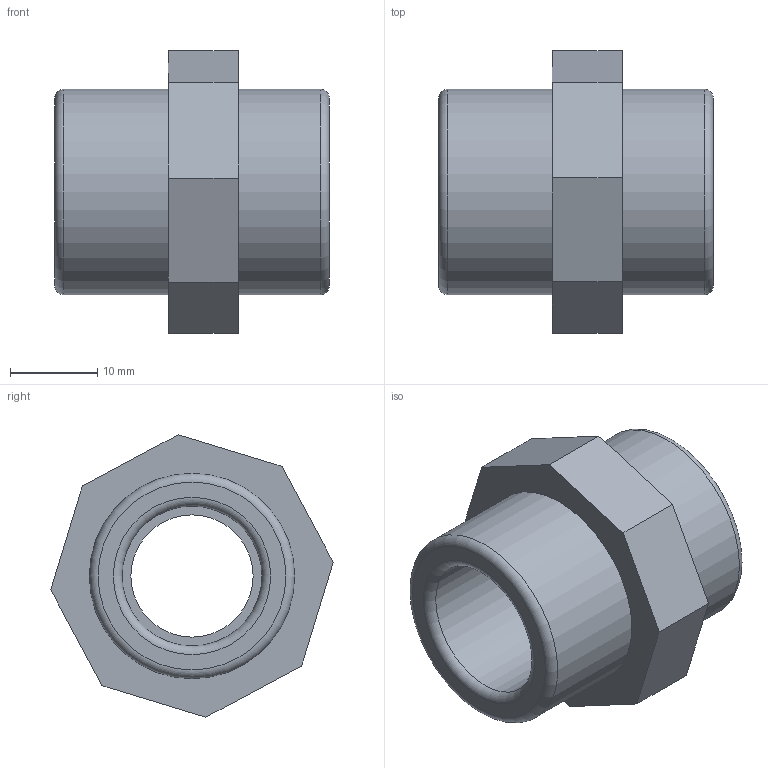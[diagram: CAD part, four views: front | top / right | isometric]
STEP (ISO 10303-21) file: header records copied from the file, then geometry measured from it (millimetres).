
FILE_DESCRIPTION(/* description */ (''),/* implementation_level */ '2;1');
FILE_NAME(/* name */ 'C:\Users\Gabriele\Desktop\disegni 3D\SO12\SO12016A.ipt.stp',/* time_stamp */ '2017-02-10T09:52:28+01:00',/* author */ ('Eugenio'),/* organization */ (''),/* preprocessor_version */ 'ST-DEVELOPER v16.5',/* originating_system */ 'Autodesk Inventor 2017',/* authorisation */ '');
FILE_SCHEMA (('AUTOMOTIVE_DESIGN { 1 0 10303 214 3 1 1 }'));
Length unit declared in the file: millimetre
Products named in the file (1): SO12016A
Bounding box: 31.4 x 32.32 x 32.32 mm (x, y, z)
Volume: 9836.8 mm3; surface area: 5163 mm2
Topology: 1 solids, 1 shells, 23 faces, 49 edges, 32 vertices
Faces by surface type: plane 14, cylinder 5, torus 4
Full cylindrical faces by diameter (mm): 14 x1, 16 x1, 16.66 x1, 23.5 x2
Entity records: 586 total; most frequent: DIRECTION 100, CARTESIAN_POINT 92, ORIENTED_EDGE 76, EDGE_LOOP 38, EDGE_CURVE 38, AXIS2_PLACEMENT_3D 38, VERTEX_POINT 30, LINE 24
